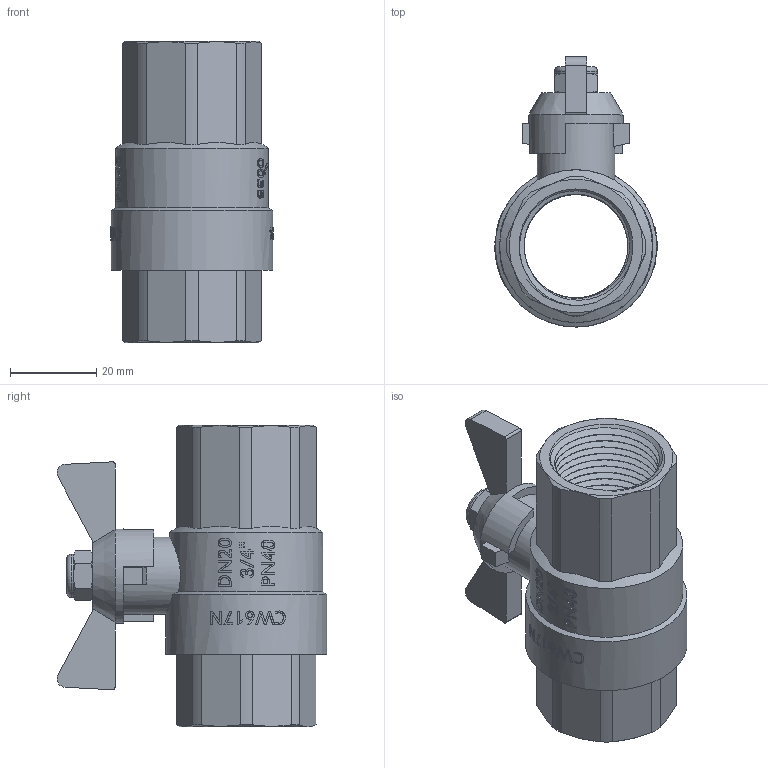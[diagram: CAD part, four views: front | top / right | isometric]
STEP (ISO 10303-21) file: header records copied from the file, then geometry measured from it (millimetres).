
FILE_DESCRIPTION(/* description */ (''),/* implementation_level */ '2;1');
FILE_NAME(/* name */ 'H:\Мишенин_3D\Исходные файлы 3D\VT.277.N.05.stp',/* time_stamp */ '2018-01-19T12:10:08+03:00',/* author */ ('MisheninAL'),/* organization */ (''),/* preprocessor_version */ 'ST-DEVELOPER v16.13',/* originating_system */ 'Autodesk Inventor 2018',/* authorisation */ '');
FILE_SCHEMA (('AUTOMOTIVE_DESIGN { 1 0 10303 214 3 1 1 }'));
Length unit declared in the file: millimetre
Products named in the file (1): VT.271_ВВ_3%4
Bounding box: 37.7 x 62.69 x 70 mm (x, y, z)
Surface area: 20425.6 mm2 (no closed solid volume)
Topology: 0 solids, 1 shells, 504 faces, 1334 edges, 876 vertices
Faces by surface type: plane 199, bspline 183, cylinder 87, cone 34, torus 1
Full cylindrical faces by diameter (mm): 10 x1, 18 x1, 22 x1, 24.1 x16, 35.5 x1, 37.5 x1
Entity records: 25607 total; most frequent: CARTESIAN_POINT 14760, ORIENTED_EDGE 2534, DIRECTION 1747, EDGE_CURVE 1267, VERTEX_POINT 834, AXIS2_PLACEMENT_3D 586, LINE 575, VECTOR 575
